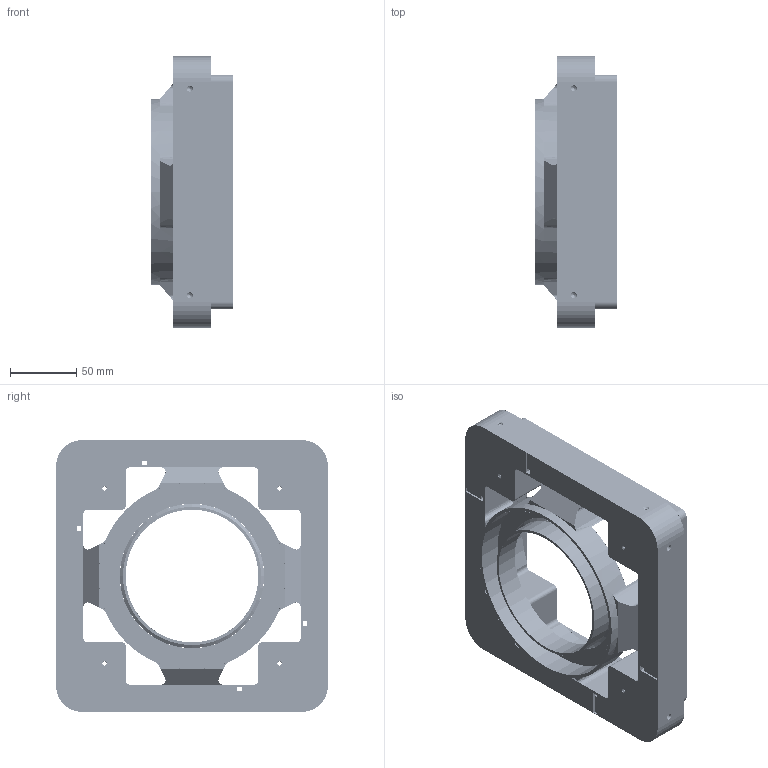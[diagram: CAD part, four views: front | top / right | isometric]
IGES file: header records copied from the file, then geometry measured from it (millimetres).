
Start section: SolidWorks IGES file using analytic representation for surfaces
Global section: file name: F:\Solidworks\神芯妙算真空系统\CoilFrame_R2Mono_M3_XRotation_Package\CoilFrame_R2Mono_M3_CNC_POM\STEP\AHMOUTH10_20261009_END_XP.IGS; native system: SolidWorks 2022; preprocessor: SolidWorks 2022; author: huyad; date: 261009.165823; units: millimetre
Bounding box: 62.1 x 205 x 205 mm (x, y, z)
Surface area: 161669.4 mm2 (no closed solid volume)
Topology: 0 solids, 0 shells, 1130 faces, 28241 edges, 28225 vertices
Faces by surface type: revolution 963, bspline 167
